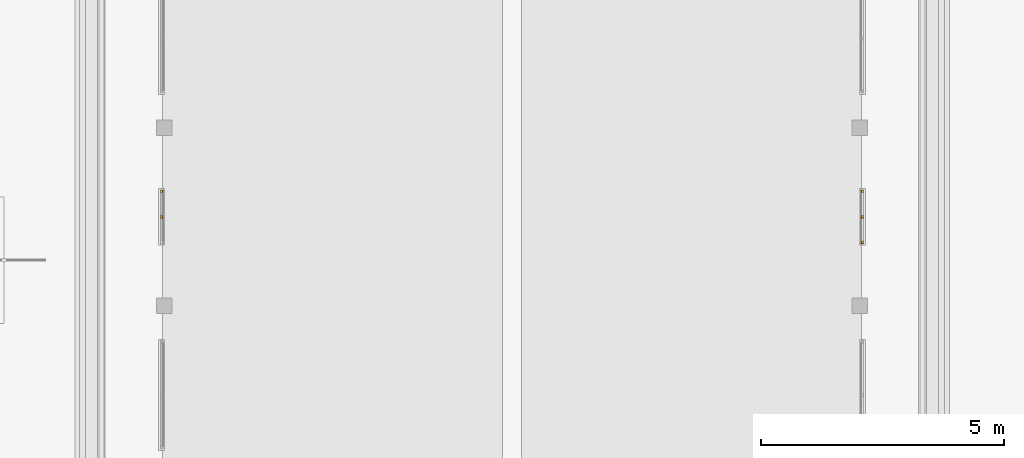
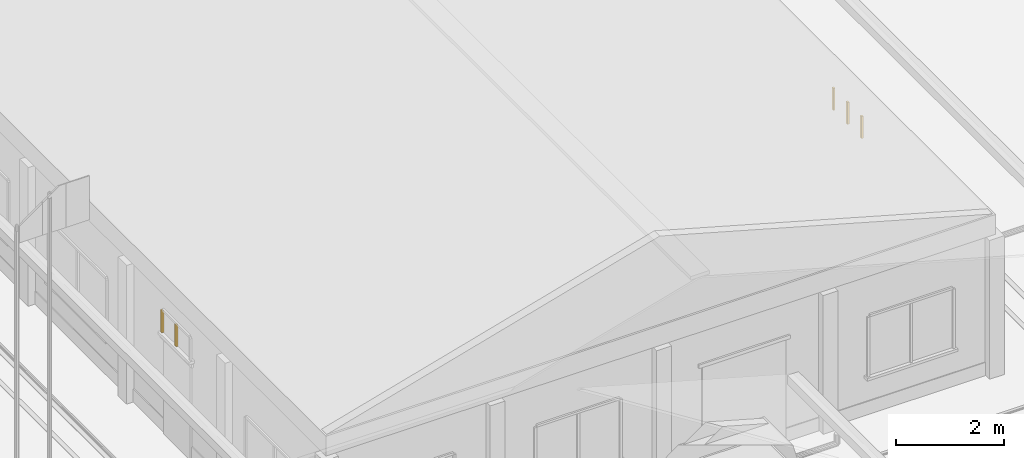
# One storey, part 82 of 177: 5 windows.
"""IFC4 building model written with IfcOpenShell, lengths in metres."""

from ifc_helpers import new_model, si_unit, origin, origin_with_axes, place, context, subcontext, project, spatial, triangles, element, save


model = new_model("IFC4")

# Units and contexts
model_context = context("Model", 3, precision=1e-05, world=origin_with_axes())
body_context = subcontext(model_context, "Body", "Model", "MODEL_VIEW")
ifc_project = project(units=[si_unit("LENGTHUNIT", "METRE"), si_unit("AREAUNIT", "SQUARE_METRE"), si_unit("VOLUMEUNIT", "CUBIC_METRE"), si_unit("PLANEANGLEUNIT", "RADIAN")], contexts=[model_context])

# Site, building, storey
site_placement = place(None, origin_with_axes())
site = spatial("IfcSite", under=ifc_project, at=site_placement, Name="Predio Los Mangos - Morales, San Martín", CompositionType="ELEMENT")
building_placement = place(site_placement, origin())
building = spatial("IfcBuilding", under=site, at=building_placement, Name="Hogar de Refugio Temporal", CompositionType="ELEMENT")
storey_placement = place(building_placement, origin())
storey = spatial("IfcBuildingStorey", under=building, at=storey_placement, Name="NIVEL 1 (NPT +0.00)", CompositionType="ELEMENT", Elevation=0.0)

# Windows
window_1_placement = place(storey_placement, origin())
element("IfcWindow", 1, at=window_1_placement, inside=storey, Name="E-05_vt1_m", ObjectType="Ventana", PredefinedType="WINDOW", context=body_context, shape_type="Tessellation", body=[
    triangles([(45.22, 63.8937, 2.45), (45.26, 63.8937, 2.45), (45.26, 63.9437, 2.45), (45.22, 63.9437, 2.45), (45.22, 63.8937, 2.95), (45.26, 63.8937, 2.95), (45.26, 63.9437, 2.95), (45.22, 63.9437, 2.95)], [[1, 4, 3], [1, 3, 2], [5, 6, 7], [5, 7, 8], [1, 2, 6], [1, 6, 5], [2, 3, 7], [2, 7, 6], [3, 4, 8], [3, 8, 7], [4, 1, 5], [4, 5, 8]]),
])
window_2_placement = place(storey_placement, origin())
element("IfcWindow", 2, at=window_2_placement, inside=storey, Name="E-05_vt1_m", ObjectType="Ventana", PredefinedType="WINDOW", context=body_context, shape_type="Tessellation", body=[
    triangles([(45.22, 63.3688, 2.45), (45.26, 63.3688, 2.45), (45.26, 63.4188, 2.45), (45.22, 63.4188, 2.45), (45.22, 63.3688, 2.95), (45.26, 63.3688, 2.95), (45.26, 63.4188, 2.95), (45.22, 63.4188, 2.95)], [[1, 4, 3], [1, 3, 2], [5, 6, 7], [5, 7, 8], [1, 2, 6], [1, 6, 5], [2, 3, 7], [2, 7, 6], [3, 4, 8], [3, 8, 7], [4, 1, 5], [4, 5, 8]]),
])
window_3_placement = place(storey_placement, origin())
element("IfcWindow", 3, at=window_3_placement, inside=storey, Name="E-05_vt1_m", ObjectType="Ventana", PredefinedType="WINDOW", context=body_context, shape_type="Tessellation", body=[
    triangles([(59.64, 62.8438, 2.45), (59.68, 62.8438, 2.45), (59.68, 62.8937, 2.45), (59.64, 62.8937, 2.45), (59.64, 62.8438, 2.95), (59.68, 62.8438, 2.95), (59.68, 62.8937, 2.95), (59.64, 62.8937, 2.95)], [[1, 4, 3], [1, 3, 2], [5, 6, 7], [5, 7, 8], [1, 2, 6], [1, 6, 5], [2, 3, 7], [2, 7, 6], [3, 4, 8], [3, 8, 7], [4, 1, 5], [4, 5, 8]]),
])
window_4_placement = place(storey_placement, origin())
element("IfcWindow", 4, at=window_4_placement, inside=storey, Name="E-05_vt1_m", ObjectType="Ventana", PredefinedType="WINDOW", context=body_context, shape_type="Tessellation", body=[
    triangles([(59.64, 63.8937, 2.45), (59.68, 63.8937, 2.45), (59.68, 63.9437, 2.45), (59.64, 63.9437, 2.45), (59.64, 63.8937, 2.95), (59.68, 63.8937, 2.95), (59.68, 63.9437, 2.95), (59.64, 63.9437, 2.95)], [[1, 4, 3], [1, 3, 2], [5, 6, 7], [5, 7, 8], [1, 2, 6], [1, 6, 5], [2, 3, 7], [2, 7, 6], [3, 4, 8], [3, 8, 7], [4, 1, 5], [4, 5, 8]]),
])
window_5_placement = place(storey_placement, origin())
element("IfcWindow", 5, at=window_5_placement, inside=storey, Name="E-05_vt1_m", ObjectType="Ventana", PredefinedType="WINDOW", context=body_context, shape_type="Tessellation", body=[
    triangles([(59.64, 63.3688, 2.45), (59.68, 63.3688, 2.45), (59.68, 63.4188, 2.45), (59.64, 63.4188, 2.45), (59.64, 63.3688, 2.95), (59.68, 63.3688, 2.95), (59.68, 63.4188, 2.95), (59.64, 63.4188, 2.95)], [[1, 4, 3], [1, 3, 2], [5, 6, 7], [5, 7, 8], [1, 2, 6], [1, 6, 5], [2, 3, 7], [2, 7, 6], [3, 4, 8], [3, 8, 7], [4, 1, 5], [4, 5, 8]]),
])

save(model, "model.ifc")
